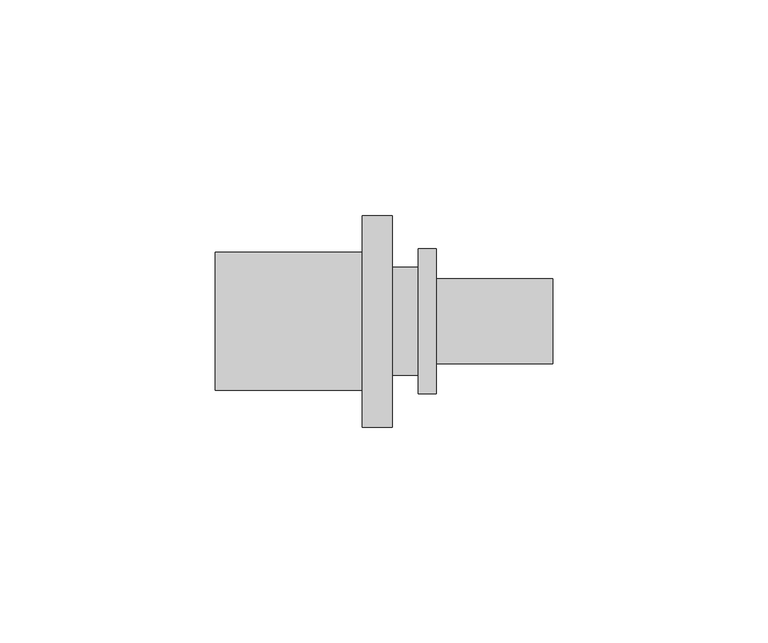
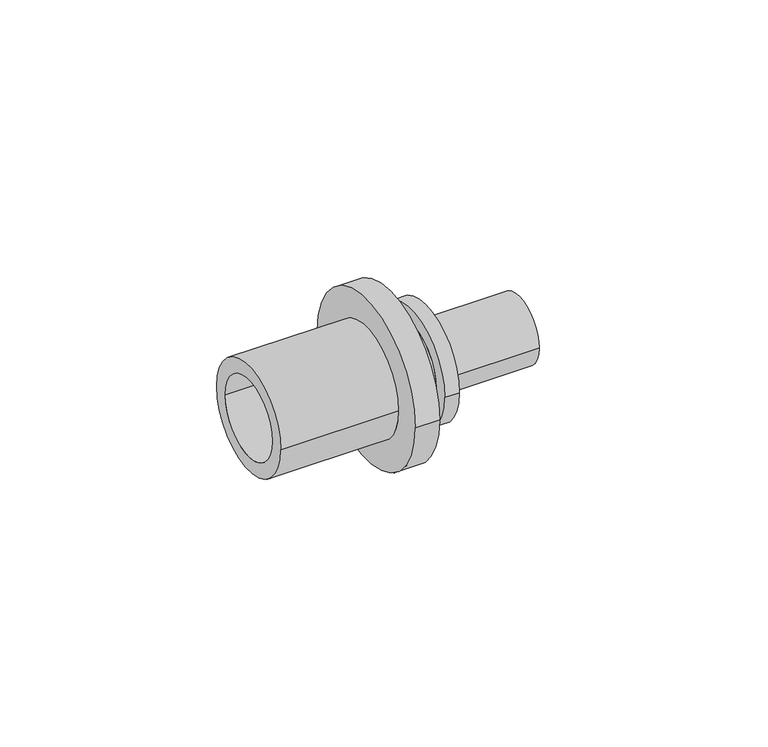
"""IFC4 building model written with IfcOpenShell, lengths in millimetres: pipe fitting geometry, RAUTITAN_Transition_RX+ : RTI RX+ Tr DE."""

from ifc_helpers import new_model, si_unit, frame, origin, place, context, project, spatial, polyline, circle_curve, source, transform, mapped, element, save
from ifc_brep_helpers import plane_surface, cylinder_surface, revolved_surface, advanced_brep


def pipe_fitting_f25a30e4(model_context):
    return source(origin(), model_context, "Body", "AdvancedBrep", [
        advanced_brep(
        [(-44.0, 11.75, 0.0), (-44.0, -11.75, 0.0), (-10.0, -11.75, 0.0), (-10.0, 11.75, 0.0), (3.0, 12.5, 0.0), (3.0, -12.5, 0.0), (-3.0, -12.5, 0.0), (-3.0, 12.5, 0.0), (7.2, 16.8, 0.0), (7.2, -16.8, 0.0), (3.0, -16.8, 0.0), (3.0, 16.8, 0.0), (34.2, 9.9, 0.0), (34.2, -9.9, 0.0), (7.2, -9.9, 0.0), (7.2, 9.9, 0.0), (-5.85, 7.6, 0.0), (-5.85, -7.6, 0.0), (34.2, -7.6, 0.0), (34.2, 7.6, 0.0), (-3.0, 24.55, 0.0), (-3.0, -24.55, 0.0), (-10.0, 16.05, 0.0), (-10.0, -16.05, 0.0), (-44.0, -16.05, 0.0), (-44.0, 16.05, 0.0), (-10.0, -24.55, 0.0), (-10.0, 24.55, 0.0)],
        [
            (0, 1, circle_curve(frame((-44.0, 0.0, 0.0), z_axis=(-1.0, 0.0, 0.0), x_axis=(0.0, -1.0, 0.0)), 11.75)),
            (1, 2),
            (2, 3, circle_curve(frame((-10.0, 0.0, 0.0), z_axis=(1.0, 0.0, 0.0), x_axis=(0.0, -1.0, 0.0)), 11.75)),
            (3, 0),
            (4, 5, circle_curve(frame((3.0, 0.0, 0.0), z_axis=(-1.0, 0.0, 0.0), x_axis=(0.0, -1.0, 0.0)), 12.5)),
            (5, 6),
            (6, 7, circle_curve(frame((-3.0, 0.0, 0.0), z_axis=(1.0, 0.0, 0.0), x_axis=(0.0, -1.0, 0.0)), 12.5)),
            (7, 4),
            (8, 9, circle_curve(frame((7.2, 0.0, 0.0), z_axis=(-1.0, 0.0, 0.0), x_axis=(0.0, -1.0, 0.0)), 16.8)),
            (9, 10),
            (10, 11, circle_curve(frame((3.0, 0.0, 0.0), z_axis=(1.0, 0.0, 0.0), x_axis=(0.0, -1.0, 0.0)), 16.8)),
            (11, 8),
            (12, 13, circle_curve(frame((34.2, 0.0, 0.0), z_axis=(-1.0, 0.0, 0.0), x_axis=(0.0, -1.0, 0.0)), 9.9)),
            (13, 14),
            (14, 15, circle_curve(frame((7.2, 0.0, 0.0), z_axis=(1.0, 0.0, 0.0), x_axis=(0.0, -1.0, 0.0)), 9.9)),
            (15, 12),
            (16, 17, circle_curve(frame((-5.85, 0.0, 0.0), z_axis=(-1.0, 0.0, 0.0), x_axis=(0.0, -1.0, 0.0)), 7.6)),
            (17, 18),
            (18, 19, circle_curve(frame((34.2, 0.0, 0.0), z_axis=(1.0, 0.0, 0.0), x_axis=(0.0, -1.0, 0.0)), 7.6)),
            (19, 16),
            (2, 17),
            (16, 3),
            (1, 0, circle_curve(frame((-44.0, 0.0, 0.0), z_axis=(-1.0, 0.0, 0.0), x_axis=(0.0, 1.0, 0.0)), 11.75)),
            (3, 2, circle_curve(frame((-10.0, 0.0, 0.0), z_axis=(1.0, 0.0, 0.0), x_axis=(0.0, 1.0, 0.0)), 11.75)),
            (20, 21, circle_curve(frame((-3.0, 0.0, 0.0), z_axis=(1.0, 0.0, 0.0), x_axis=(0.0, 1.0, 0.0)), 24.55)),
            (21, 20, circle_curve(frame((-3.0, 0.0, 0.0), z_axis=(1.0, 0.0, 0.0), x_axis=(0.0, -1.0, 0.0)), 24.55)),
            (6, 7, circle_curve(frame((-3.0, 0.0, 0.0), z_axis=(-1.0, 0.0, 0.0), x_axis=(0.0, 1.0, 0.0)), 12.5)),
            (5, 4, circle_curve(frame((3.0, 0.0, 0.0), z_axis=(-1.0, 0.0, 0.0), x_axis=(0.0, 1.0, 0.0)), 12.5)),
            (10, 11, circle_curve(frame((3.0, 0.0, 0.0), z_axis=(-1.0, 0.0, 0.0), x_axis=(0.0, 1.0, 0.0)), 16.8)),
            (9, 8, circle_curve(frame((7.2, 0.0, 0.0), z_axis=(-1.0, 0.0, 0.0), x_axis=(0.0, 1.0, 0.0)), 16.8)),
            (14, 15, circle_curve(frame((7.2, 0.0, 0.0), z_axis=(-1.0, 0.0, 0.0), x_axis=(0.0, 1.0, 0.0)), 9.9)),
            (13, 12, circle_curve(frame((34.2, 0.0, 0.0), z_axis=(-1.0, 0.0, 0.0), x_axis=(0.0, 1.0, 0.0)), 9.9)),
            (18, 19, circle_curve(frame((34.2, 0.0, 0.0), z_axis=(-1.0, 0.0, 0.0), x_axis=(0.0, 1.0, 0.0)), 7.6)),
            (17, 16, circle_curve(frame((-5.85, 0.0, 0.0), z_axis=(-1.0, 0.0, 0.0), x_axis=(0.0, 1.0, 0.0)), 7.6)),
            (22, 23, circle_curve(frame((-10.0, 0.0, 0.0), z_axis=(-1.0, 0.0, 0.0), x_axis=(0.0, -1.0, 0.0)), 16.05)),
            (23, 24),
            (24, 25, circle_curve(frame((-44.0, 0.0, 0.0), z_axis=(1.0, 0.0, 0.0), x_axis=(0.0, -1.0, 0.0)), 16.05)),
            (25, 22),
            (21, 26),
            (26, 27, circle_curve(frame((-10.0, 0.0, 0.0), z_axis=(1.0, 0.0, 0.0), x_axis=(0.0, -1.0, 0.0)), 24.55)),
            (27, 20),
            (24, 25, circle_curve(frame((-44.0, 0.0, 0.0), z_axis=(-1.0, 0.0, 0.0), x_axis=(0.0, 1.0, 0.0)), 16.05)),
            (23, 22, circle_curve(frame((-10.0, 0.0, 0.0), z_axis=(-1.0, 0.0, 0.0), x_axis=(0.0, 1.0, 0.0)), 16.05)),
            (26, 27, circle_curve(frame((-10.0, 0.0, 0.0), z_axis=(-1.0, 0.0, 0.0), x_axis=(0.0, 1.0, 0.0)), 24.55)),
        ],
        [
            revolved_surface(polyline([(-10.0, -11.75, 0.0), (-44.0, -11.75, 0.0)]), (0.0, 0.0, 0.0), (1.0, 0.0, 0.0)),
            cylinder_surface(frame((0.0, 0.0, 0.0), z_axis=(1.0, 0.0, 0.0), x_axis=(0.0, -1.0, 0.0)), 12.5),
            cylinder_surface(frame((0.0, 0.0, 0.0), z_axis=(1.0, 0.0, 0.0), x_axis=(0.0, -1.0, 0.0)), 16.8),
            cylinder_surface(frame((0.0, 0.0, 0.0), z_axis=(1.0, 0.0, 0.0), x_axis=(0.0, -1.0, 0.0)), 9.9),
            revolved_surface(polyline([(34.2, -7.6, 0.0), (-5.85, -7.6, 0.0)]), (0.0, 0.0, 0.0), (1.0, 0.0, 0.0)),
            revolved_surface(polyline([(-5.85, -7.6, 0.0), (-10.0, -11.75, 0.0)]), (0.0, 0.0, 0.0), (1.0, 0.0, 0.0)),
            revolved_surface(polyline([(-10.0, 11.75, 0.0), (-44.0, 11.75, 0.0)]), (0.0, 0.0, 0.0), (1.0, 0.0, 0.0)),
            plane_surface(frame((-3.0, 0.0, 0.0), z_axis=(1.0, 0.0, 0.0), x_axis=(0.0, 1.0, 0.0))),
            cylinder_surface(frame((0.0, 0.0, 0.0), z_axis=(1.0, 0.0, 0.0), x_axis=(0.0, 1.0, 0.0)), 12.5),
            plane_surface(frame((3.0, 0.0, 0.0), z_axis=(-1.0, 0.0, 0.0), x_axis=(0.0, 1.0, 0.0))),
            cylinder_surface(frame((0.0, 0.0, 0.0), z_axis=(1.0, 0.0, 0.0), x_axis=(0.0, 1.0, 0.0)), 16.8),
            plane_surface(frame((7.2, 0.0, 0.0), z_axis=(1.0, 0.0, 0.0), x_axis=(0.0, 1.0, 0.0))),
            cylinder_surface(frame((0.0, 0.0, 0.0), z_axis=(1.0, 0.0, 0.0), x_axis=(0.0, 1.0, 0.0)), 9.9),
            plane_surface(frame((34.2, 0.0, 0.0), z_axis=(1.0, 0.0, 0.0), x_axis=(0.0, 1.0, 0.0))),
            revolved_surface(polyline([(34.2, 7.6, 0.0), (-5.85, 7.6, 0.0)]), (0.0, 0.0, 0.0), (1.0, 0.0, 0.0)),
            revolved_surface(polyline([(-5.85, 7.6, 0.0), (-10.0, 11.75, 0.0)]), (0.0, 0.0, 0.0), (1.0, 0.0, 0.0)),
            cylinder_surface(frame((0.0, 0.0, 0.0), z_axis=(1.0, 0.0, 0.0), x_axis=(0.0, -1.0, 0.0)), 16.05),
            cylinder_surface(frame((0.0, 0.0, 0.0), z_axis=(1.0, 0.0, 0.0), x_axis=(0.0, -1.0, 0.0)), 24.55),
            plane_surface(frame((-44.0, 0.0, 0.0), z_axis=(-1.0, 0.0, 0.0), x_axis=(0.0, 1.0, 0.0))),
            cylinder_surface(frame((0.0, 0.0, 0.0), z_axis=(1.0, 0.0, 0.0), x_axis=(0.0, 1.0, 0.0)), 16.05),
            plane_surface(frame((-10.0, 0.0, 0.0), z_axis=(-1.0, 0.0, 0.0), x_axis=(0.0, 1.0, 0.0))),
            cylinder_surface(frame((0.0, 0.0, 0.0), z_axis=(1.0, 0.0, 0.0), x_axis=(0.0, 1.0, 0.0)), 24.55),
        ],
        [
            (0, [[1, 2, 3, 4]]),
            (1, [[5, 6, 7, 8]]),
            (2, [[9, 10, 11, 12]]),
            (3, [[13, 14, 15, 16]]),
            (4, [[17, 18, 19, 20]]),
            (5, [[-3, 21, -17, 22]]),
            (6, [[23, -4, 24, -2]]),
            (7, [[25, 26], [27, -7]]),
            (8, [[28, -8, -27, -6]]),
            (9, [[29, -11], [-28, -5]]),
            (10, [[30, -12, -29, -10]]),
            (11, [[-30, -9], [31, -15]]),
            (12, [[32, -16, -31, -14]]),
            (13, [[-32, -13], [33, -19]]),
            (14, [[34, -20, -33, -18]]),
            (15, [[-24, -22, -34, -21]]),
            (16, [[35, 36, 37, 38]]),
            (17, [[-26, 39, 40, 41]]),
            (18, [[42, -37], [-23, -1]]),
            (19, [[43, -38, -42, -36]]),
            (20, [[44, -40], [-43, -35]]),
            (21, [[-25, -41, -44, -39]]),
        ],
    ),
    ])


if __name__ == "__main__":
    model = new_model("IFC4")
    model_context = context("Model", 3, world=origin())
    ifc_project = project(units=[si_unit("LENGTHUNIT", "METRE", prefix="MILLI")], contexts=[model_context])
    site = spatial("IfcSite", under=ifc_project)
    building = spatial("IfcBuilding", under=site)
    placement = place(None, origin())
    pipe_fitting_shape = pipe_fitting_f25a30e4(model_context)
    element("IfcPipeFitting", 1, ObjectType="RAUTITAN_Transition_RX+ : RTI RX+ Tr DE", at=placement, inside=building, context=model_context, shape_type="MappedRepresentation", body=[
        mapped(pipe_fitting_shape, transform((0.0, 0.0, 0.0), x_axis=(1.0, 0.0, 0.0), y_axis=(0.0, 1.0, 0.0), z_axis=(0.0, 0.0, 1.0))),
    ])
    save(model, "model.ifc")
